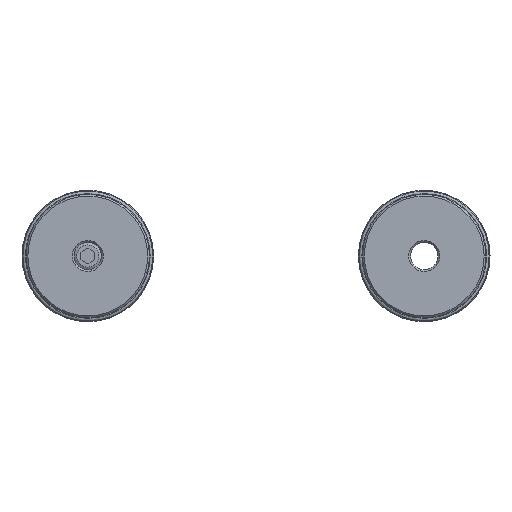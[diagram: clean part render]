
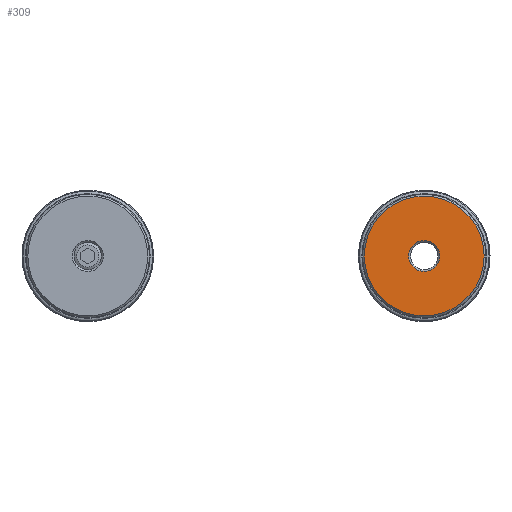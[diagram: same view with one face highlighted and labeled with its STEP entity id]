
A CAD part, left-side view. The second image highlights one B-rep face of the part: STEP entity #309.
In plain terms, the highlighted planar face has unit normal (-1, 0, 0).
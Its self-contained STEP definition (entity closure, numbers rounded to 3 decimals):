
#309 = ADVANCED_FACE( 'NONE', ( #621, #622 ), #623, .F. );
#621 = FACE_OUTER_BOUND( '', #880, .T. );
#622 = FACE_BOUND( '', #881, .T. );
#623 = PLANE( '', #882 );
#880 = EDGE_LOOP( '', ( #1298 ) );
#881 = EDGE_LOOP( '', ( #1299 ) );
#882 = AXIS2_PLACEMENT_3D( '', #1300, #1301, #1302 );
#1298 = ORIENTED_EDGE( '', *, *, #1456, .T. );
#1299 = ORIENTED_EDGE( '', *, *, #1455, .T. );
#1300 = CARTESIAN_POINT( '', ( 0., 1.5, 0. ) );
#1301 = DIRECTION( '', ( 1., 0., 0. ) );
#1302 = DIRECTION( '', ( 0., 1., 0. ) );
#1455 = EDGE_CURVE( 'NONE', #1635, #1635, #1636, .T. );
#1456 = EDGE_CURVE( 'NONE', #1637, #1637, #1638, .F. );
#1635 = VERTEX_POINT( '', #1836 );
#1636 = CIRCLE( '', #1837, 1.7 );
#1637 = VERTEX_POINT( '', #1838 );
#1638 = CIRCLE( '', #1839, 6.55 );
#1836 = CARTESIAN_POINT( '', ( 0., 0., -1.7 ) );
#1837 = AXIS2_PLACEMENT_3D( '', #2059, #2060, #2061 );
#1838 = CARTESIAN_POINT( '', ( 0., 0., -6.55 ) );
#1839 = AXIS2_PLACEMENT_3D( '', #2062, #2063, #2064 );
#2059 = CARTESIAN_POINT( '', ( 0., 0., 0. ) );
#2060 = DIRECTION( '', ( 1., 0., 0. ) );
#2061 = DIRECTION( '', ( 0., 0., -1. ) );
#2062 = CARTESIAN_POINT( '', ( 0., 0., 0. ) );
#2063 = DIRECTION( '', ( 1., 0., 0. ) );
#2064 = DIRECTION( '', ( 0., 0., -1. ) );
